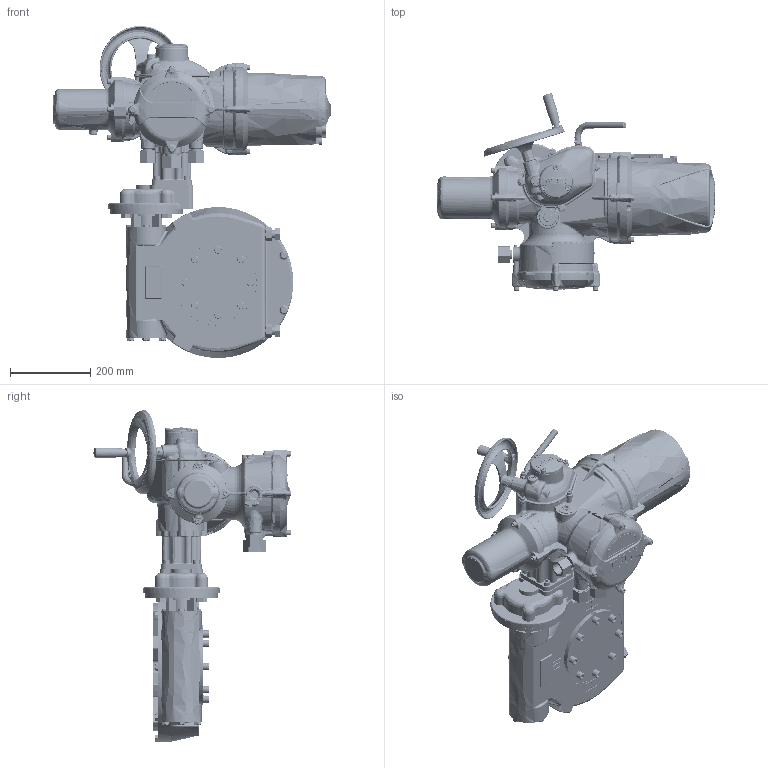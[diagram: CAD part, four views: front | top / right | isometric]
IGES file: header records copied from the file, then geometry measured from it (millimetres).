
Start section: C
Global section: file name: II1SHWIWD6RLSTD-1.igs; native system: By Siemens PLM Incorporated; preprocessor: XPlus GENERIC/IGES 17.0.49; author: Author; organization: Title; date: 20150721.083919; units: millimetre
Bounding box: 692.3 x 489.76 x 825.1 mm (x, y, z)
Surface area: 1447641.1 mm2 (no closed solid volume)
Topology: 0 solids, 0 shells, 8469 faces, 46447 edges, 46010 vertices
Faces by surface type: bspline 8469
